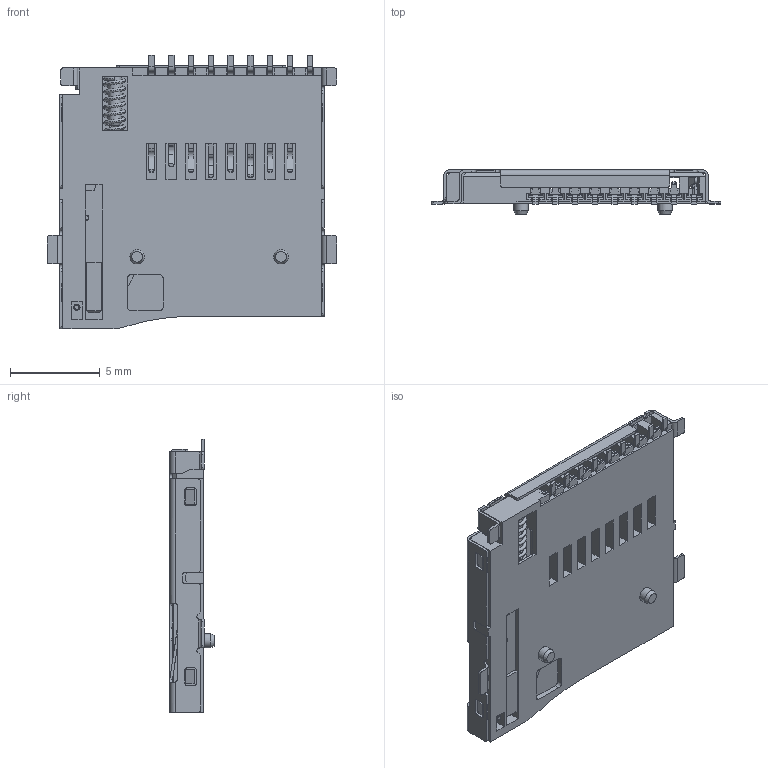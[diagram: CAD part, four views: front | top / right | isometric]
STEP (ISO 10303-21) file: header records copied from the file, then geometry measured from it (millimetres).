
FILE_DESCRIPTION (( 'STEP AP214' ), '1' );
FILE_NAME ('User Library-112J-TXAR-R_C_1-1.STEP', '2021-05-25T07:14:38', ( '' ), ( '' ), 'SwSTEP 2.0', 'SolidWorks 2018', '' );
FILE_SCHEMA (( 'AUTOMOTIVE_DESIGN' ));
Length unit declared in the file: millimetre
Products named in the file (2): User Library-112J-TXAR-R_C_1-1
Bounding box: 16.1 x 2.45 x 15.2 mm (x, y, z)
Volume: 189.9 mm3; surface area: 1335.6 mm2
Topology: 14 solids, 14 shells, 1291 faces, 3660 edges, 2375 vertices
Faces by surface type: plane 988, cylinder 255, cone 28, bspline 16, torus 4
Full cylindrical faces by diameter (mm): 0.3 x3, 0.35 x1, 0.7 x1, 0.8 x2
Entity records: 60540 total; most frequent: CARTESIAN_POINT 12747, ORIENTED_EDGE 7274, DIRECTION 6515, EDGE_CURVE 3637, VECTOR 2981, LINE 2981, VERTEX_POINT 2366, AXIS2_PLACEMENT_3D 1767
